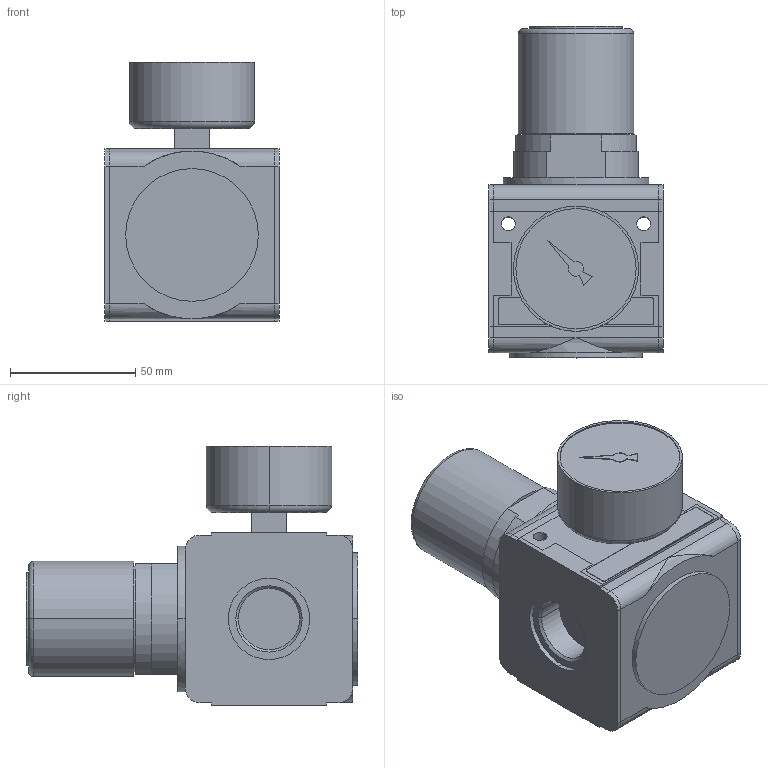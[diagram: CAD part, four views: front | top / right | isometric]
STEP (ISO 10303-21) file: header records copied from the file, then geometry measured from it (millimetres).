
FILE_DESCRIPTION((''),'2;1');
FILE_NAME('0821302544_ASM','2019-03-21T',('hug2hc'),(''),'CREO PARAMETRIC BY PTC INC, 2016260','CREO PARAMETRIC BY PTC INC, 2016260','');
FILE_SCHEMA(('CONFIG_CONTROL_DESIGN'));
Length unit declared in the file: millimetre
Products named in the file (4): 0821302544; SG-NL4-MANOMETER; 0821302544-B; 0821302544_ASM
Assembly tree (4 placements, depth 2):
  0821302544_ASM
    0821302544
    SG-NL4-MANOMETER
    0821302544-B  x2
Bounding box: 69.5 x 132.5 x 103.7 mm (x, y, z)
Volume: 466321.9 mm3; surface area: 68940.9 mm2
Topology: 4 solids, 4 shells, 202 faces, 507 edges, 330 vertices
Faces by surface type: plane 118, cylinder 66, cone 14, torus 4
Entity records: 5348 total; most frequent: CARTESIAN_POINT 963, DIRECTION 929, ORIENTED_EDGE 858, EDGE_CURVE 429, AXIS2_PLACEMENT_3D 322, VECTOR 285, LINE 285, VERTEX_POINT 278
